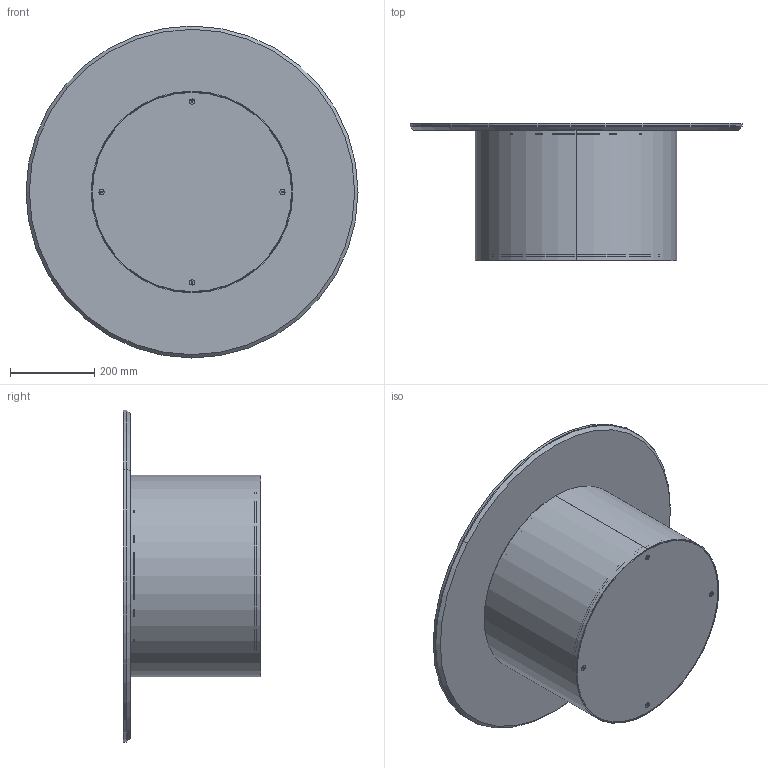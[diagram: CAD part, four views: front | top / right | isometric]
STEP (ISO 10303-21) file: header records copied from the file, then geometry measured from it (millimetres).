
FILE_DESCRIPTION (( 'STEP AP214' ), '1' );
FILE_NAME ('CL12C.STEP', '2024-08-06T10:15:19', ( '' ), ( '' ), 'SwSTEP 2.0', 'SolidWorks 2022', '' );
FILE_SCHEMA (( 'AUTOMOTIVE_DESIGN' ));
Length unit declared in the file: millimetre
Products named in the file (10): CLB1000000-00-CILINDRO LOW D.48cm BASE GREZZA; CLB1000000_03-00-Zavorra cilindro low D.48cm; CL12C; CLB1000000_04-00-Supporto Zavorra fusto D.48cm; M6xXXmm_HEX_M6x20mm HEX; CLB1000000_01-00-Supporto piano fusto D.48cm; K1XCMXX-00-Piani Rotondi in ceramica_D.790; P0000003-00-STAFFA DI FISSAGGIO DIAMETRO 250_P0000003-250mm normale; CLB1000000_02-00-Fusto centrale d.48cm; KXXCXX-00-Piani Rotondi in ceramica CON PIASTRA_K12P PIANO CERAMICA D.79cm
Assembly tree (12 placements, depth 3):
  CL12C
    CLB1000000-00-CILINDRO LOW D.48cm BASE GREZZA
      CLB1000000_02-00-Fusto centrale d.48cm
      CLB1000000_03-00-Zavorra cilindro low D.48cm
      CLB1000000_01-00-Supporto piano fusto D.48cm
      CLB1000000_04-00-Supporto Zavorra fusto D.48cm
      M6xXXmm_HEX_M6x20mm HEX  x4
    KXXCXX-00-Piani Rotondi in ceramica CON PIASTRA_K12P PIANO CERAMICA D.79cm
      K1XCMXX-00-Piani Rotondi in ceramica_D.790
      P0000003-00-STAFFA DI FISSAGGIO DIAMETRO 250_P0000003-250mm normale
Bounding box: 790 x 326 x 790 mm (x, y, z)
Volume: 11276549.9 mm3; surface area: 3678722.9 mm2
Topology: 13 solids, 13 shells, 237 faces, 509 edges, 294 vertices
Faces by surface type: plane 112, cylinder 75, cone 40, torus 8, bspline 2
Entity records: 4774 total; most frequent: CARTESIAN_POINT 1024, DIRECTION 725, ORIENTED_EDGE 606, EDGE_CURVE 303, AXIS2_PLACEMENT_3D 296, VERTEX_POINT 189, EDGE_LOOP 170, CIRCLE 146
